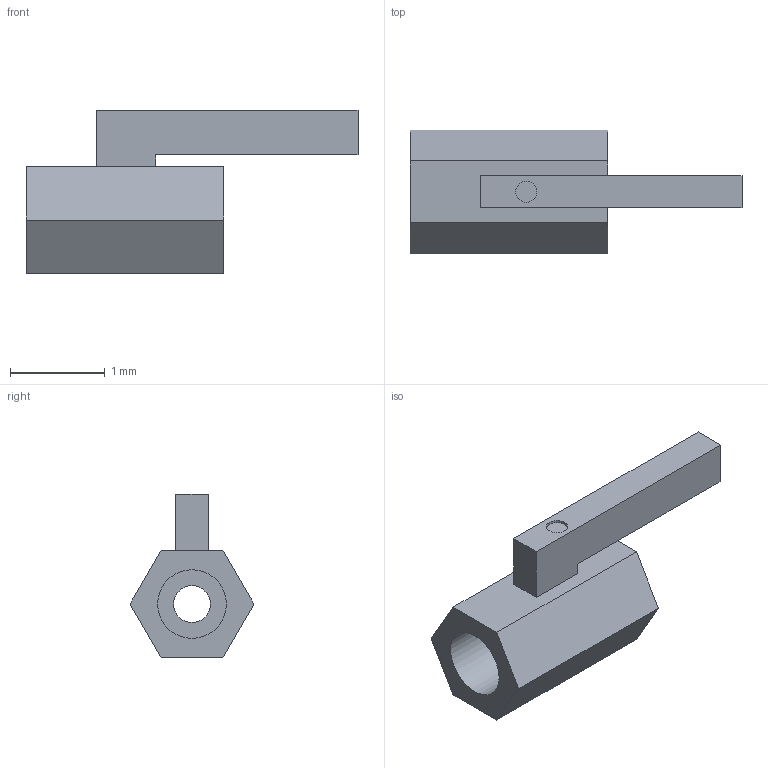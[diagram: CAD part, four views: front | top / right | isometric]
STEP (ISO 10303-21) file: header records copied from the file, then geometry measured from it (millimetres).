
FILE_DESCRIPTION(('Open CASCADE Model'),'2;1');
FILE_NAME('Open CASCADE Shape Model','2021-09-23T14:39:13',('Author'),( 'Open CASCADE'),'Open CASCADE STEP processor 7.3','Open CASCADE 7.3' ,'Unknown');
FILE_SCHEMA(('AUTOMOTIVE_DESIGN { 1 0 10303 214 1 1 1 1 }'));
Length unit declared in the file: millimetre
Products named in the file (1): Open CASCADE STEP translator 7.3 1
Bounding box: 3.51 x 1.31 x 1.73 mm (x, y, z)
Volume: 2.2 mm3; surface area: 18.8 mm2
Topology: 1 solids, 1 shells, 22 faces, 48 edges, 32 vertices
Faces by surface type: plane 18, cylinder 4
Full cylindrical faces by diameter (mm): 0.223 x1, 0.39 x1, 0.726 x2
Entity records: 1246 total; most frequent: CARTESIAN_POINT 227, DIRECTION 190, LINE 124, VECTOR 124, ORIENTED_EDGE 96, PCURVE 96, DEFINITIONAL_REPRESENTATION 96, EDGE_CURVE 48
